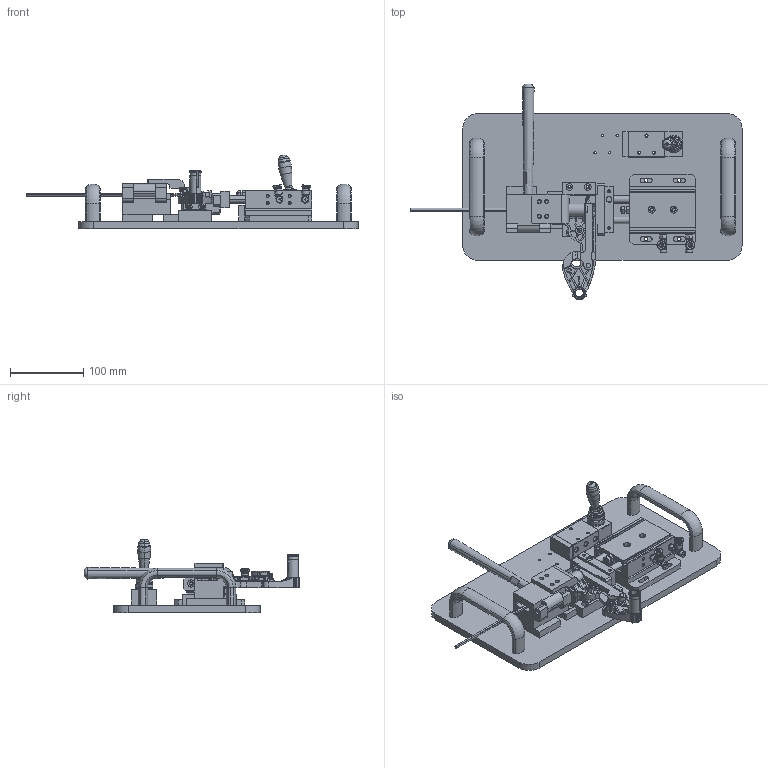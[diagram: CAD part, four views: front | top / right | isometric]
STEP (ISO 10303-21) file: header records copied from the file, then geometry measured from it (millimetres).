
FILE_DESCRIPTION (( 'STEP AP214' ), '1' );
FILE_NAME ('GZ26.00_V1悬浮插管工装.STEP', '2021-04-01T00:32:56', ( '微软中国' ), ( 'Microsoft' ), 'SwSTEP 2.0', 'SolidWorks 2017', '' );
FILE_SCHEMA (( 'AUTOMOTIVE_DESIGN' ));
Length unit declared in the file: millimetre
Products named in the file (21): 唑腹啊裝; 絳砃揤輸; 奻揤輸; 盓傅啣; 狟揤輸; 嘐隅釱; 賑雄菁釱-03; ァ詰菁釱; TR20X20S; _TR20-20_fr; _TR20-2020_b; 菁釱-V02; 絳砃輸; 菁釱; 忒梟; ァ奪; 隅弇釱; GZ26.00_V1唑腹脣奪馱蚾; PTL6M5A-M; 4HA21006; UABLC20-120_UABLC20-120
Assembly tree (23 placements, depth 3):
  GZ26.00_V1唑腹脣奪馱蚾
    忒梟
    菁釱
    絳砃輸  x2
    菁釱-V02
    TR20X20S
      _TR20-2020_b
      _TR20-20_fr
    ァ詰菁釱
    賑雄菁釱-03
    嘐隅釱
    狟揤輸
    盓傅啣
    奻揤輸
    絳砃揤輸
    唑腹啊裝
    UABLC20-120_UABLC20-120  x2
    4HA21006
    PTL6M5A-M  x2
    隅弇釱
    ァ奪
Bounding box: 452 x 293.84 x 100.34 mm (x, y, z)
Volume: 1459548.9 mm3; surface area: 391831.9 mm2
Topology: 26 solids, 26 shells, 1938 faces, 4976 edges, 3189 vertices
Faces by surface type: plane 820, cylinder 772, cone 238, bspline 80, torus 28
Entity records: 60271 total; most frequent: CARTESIAN_POINT 13032, DIRECTION 9380, ORIENTED_EDGE 9128, EDGE_CURVE 4564, AXIS2_PLACEMENT_3D 3403, VERTEX_POINT 2965, LINE 2574, VECTOR 2574
